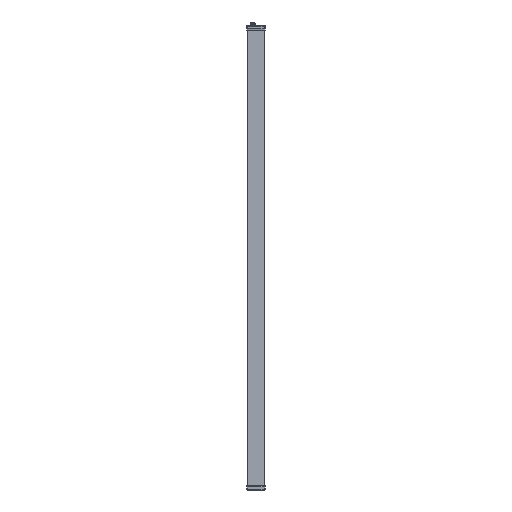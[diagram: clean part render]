
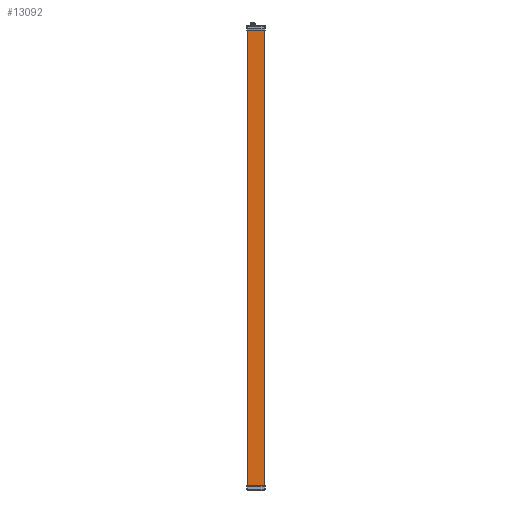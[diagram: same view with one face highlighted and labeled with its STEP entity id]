
A CAD part, left-side view. The second image highlights one B-rep face of the part: STEP entity #13092.
In plain terms, the highlighted planar face has unit normal (-1, 0, 0).
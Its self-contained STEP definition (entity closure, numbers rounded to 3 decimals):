
#13092 = ADVANCED_FACE ( 'NONE', ( #26219 ), #26145, .T. ) ;
#13094 = EDGE_LOOP ( 'NONE', ( #13096, #13102, #13103, #13106 ) ) ;
#13096 = ORIENTED_EDGE ( 'NONE', *, *, #13097, .F. ) ;
#13097 = EDGE_CURVE ( 'NONE', #13135, #13099, #26140, .T. ) ;
#13099 = VERTEX_POINT ( 'NONE', #26136 ) ;
#13102 = ORIENTED_EDGE ( 'NONE', *, *, #13146, .T. ) ;
#13103 = ORIENTED_EDGE ( 'NONE', *, *, #13104, .F. ) ;
#13104 = EDGE_CURVE ( 'NONE', #13105, #13158, #26135, .T. ) ;
#13105 = VERTEX_POINT ( 'NONE', #26131 ) ;
#13106 = ORIENTED_EDGE ( 'NONE', *, *, #13107, .T. ) ;
#13107 = EDGE_CURVE ( 'NONE', #13105, #13099, #26129, .T. ) ;
#13135 = VERTEX_POINT ( 'NONE', #26298 ) ;
#13146 = EDGE_CURVE ( 'NONE', #13135, #13158, #26516, .T. ) ;
#13158 = VERTEX_POINT ( 'NONE', #26502 ) ;
#26126 = DIRECTION ( 'NONE',  ( 0., 0., 1. ) ) ;
#26127 = VECTOR ( 'NONE', #26126, 1000. ) ;
#26128 = CARTESIAN_POINT ( 'NONE',  ( -44.402, -12.274, 715. ) ) ;
#26129 = LINE ( 'NONE', #26128, #26127 ) ;
#26131 = CARTESIAN_POINT ( 'NONE',  ( -44.402, -12.274, -429. ) ) ;
#26132 = DIRECTION ( 'NONE',  ( 0., 1., 0. ) ) ;
#26133 = VECTOR ( 'NONE', #26132, 1000. ) ;
#26134 = CARTESIAN_POINT ( 'NONE',  ( -44.402, -44.986, -429. ) ) ;
#26135 = LINE ( 'NONE', #26134, #26133 ) ;
#26136 = CARTESIAN_POINT ( 'NONE',  ( -44.402, -12.274, 713. ) ) ;
#26137 = DIRECTION ( 'NONE',  ( 0., -1., 0. ) ) ;
#26138 = VECTOR ( 'NONE', #26137, 1000. ) ;
#26139 = CARTESIAN_POINT ( 'NONE',  ( -44.402, -44.986, 713. ) ) ;
#26140 = LINE ( 'NONE', #26139, #26138 ) ;
#26141 = DIRECTION ( 'NONE',  ( 0., -1., 0. ) ) ;
#26142 = DIRECTION ( 'NONE',  ( -1., 0., 0. ) ) ;
#26143 = CARTESIAN_POINT ( 'NONE',  ( -44.402, -44.986, 715. ) ) ;
#26144 = AXIS2_PLACEMENT_3D ( 'NONE', #26143, #26142, #26141 ) ;
#26145 = PLANE ( 'NONE',  #26144 ) ;
#26219 = FACE_OUTER_BOUND ( 'NONE', #13094, .T. ) ;
#26298 = CARTESIAN_POINT ( 'NONE',  ( -44.402, 28.726, 713. ) ) ;
#26502 = CARTESIAN_POINT ( 'NONE',  ( -44.402, 28.726, -429. ) ) ;
#26513 = DIRECTION ( 'NONE',  ( 0., 0., -1. ) ) ;
#26514 = VECTOR ( 'NONE', #26513, 1000. ) ;
#26515 = CARTESIAN_POINT ( 'NONE',  ( -44.402, 28.726, 715. ) ) ;
#26516 = LINE ( 'NONE', #26515, #26514 ) ;
